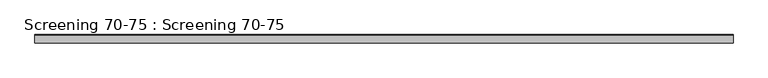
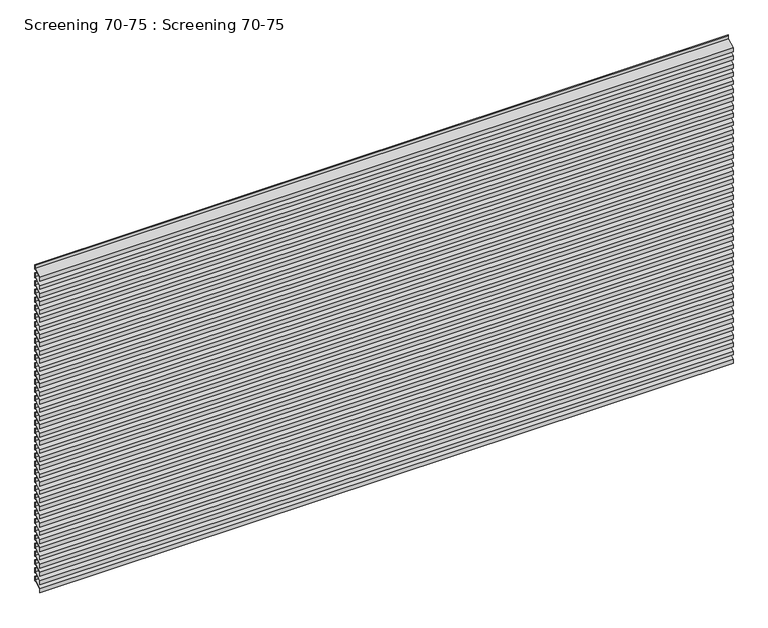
"""IFC4 building model written with IfcOpenShell, lengths in millimetres: plate geometry, Screening 70-75 : Screening 70-75."""

from ifc_helpers import new_model, si_unit, point, frame, frame_2d, origin, place, context, project, spatial, polyline, circle_curve, trimmed, segment, composite_curve, outline, extrude, source, transform, mapped, element, save


def screening_70_75_screening_70_75_aa86186d(model_context):
    return source(origin(), model_context, "Body", "SweptSolid", [
        extrude(outline(composite_curve([segment(polyline([(-73.0, 2862.1), (-73.0, 2897.5291809)]), True, "CONTINUOUS"), segment(trimmed(circle_curve(frame_2d((-534.237547, 3776.0902569)), 992.2749816), [point((-73.0, 2897.5291809))], [point((-4.0, 2937.3663555))], True, "CARTESIAN"), True, "CONTINUOUS"), segment(polyline([(-4.0, 2937.3663555), (-4.0, 2968.009614), (0.0, 2971.1725089), (0.0, 2926.6482493), (-17.4871094, 2926.6482493)]), True, "CONTINUOUS"), segment(trimmed(circle_curve(frame_2d((-534.237547, 3776.0902569)), 994.2749816), [point((-17.4871094, 2926.6482493))], [point((-71.0, 2896.3211315))], False, "CARTESIAN"), True, "CONTINUOUS"), segment(polyline([(-71.0, 2896.3211315), (-71.0, 2862.1), (-73.0, 2862.1)]), True, "CONTINUOUS")], self_intersect=False)), frame((-3000.0, 0.0, 0.0), z_axis=(1.0, 0.0, 0.0), x_axis=(0.0, 1.0, 0.0)), (0.0, 0.0, 1.0), 6000.0),
        extrude(outline(composite_curve([segment(polyline([(-73.0, 2787.1), (-73.0, 2822.5291809)]), True, "CONTINUOUS"), segment(trimmed(circle_curve(frame_2d((-534.237547, 3701.0902569)), 992.2749816), [point((-73.0, 2822.5291809))], [point((-4.0, 2862.3663555))], True, "CARTESIAN"), True, "CONTINUOUS"), segment(polyline([(-4.0, 2862.3663555), (-4.0, 2893.009614), (0.0, 2896.1725089), (0.0, 2851.6482493), (-17.4871094, 2851.6482493)]), True, "CONTINUOUS"), segment(trimmed(circle_curve(frame_2d((-534.237547, 3701.0902569)), 994.2749816), [point((-17.4871094, 2851.6482493))], [point((-71.0, 2821.3211315))], False, "CARTESIAN"), True, "CONTINUOUS"), segment(polyline([(-71.0, 2821.3211315), (-71.0, 2787.1), (-73.0, 2787.1)]), True, "CONTINUOUS")], self_intersect=False)), frame((-3000.0, 0.0, 0.0), z_axis=(1.0, 0.0, 0.0), x_axis=(0.0, 1.0, 0.0)), (0.0, 0.0, 1.0), 6000.0),
        extrude(outline(composite_curve([segment(polyline([(-73.0, 2712.1), (-73.0, 2747.5291809)]), True, "CONTINUOUS"), segment(trimmed(circle_curve(frame_2d((-534.237547, 3626.0902569)), 992.2749816), [point((-73.0, 2747.5291809))], [point((-4.0, 2787.3663555))], True, "CARTESIAN"), True, "CONTINUOUS"), segment(polyline([(-4.0, 2787.3663555), (-4.0, 2818.009614), (0.0, 2821.1725089), (0.0, 2776.6482493), (-17.4871094, 2776.6482493)]), True, "CONTINUOUS"), segment(trimmed(circle_curve(frame_2d((-534.237547, 3626.0902569)), 994.2749816), [point((-17.4871094, 2776.6482493))], [point((-71.0, 2746.3211315))], False, "CARTESIAN"), True, "CONTINUOUS"), segment(polyline([(-71.0, 2746.3211315), (-71.0, 2712.1), (-73.0, 2712.1)]), True, "CONTINUOUS")], self_intersect=False)), frame((-3000.0, 0.0, 0.0), z_axis=(1.0, 0.0, 0.0), x_axis=(0.0, 1.0, 0.0)), (0.0, 0.0, 1.0), 6000.0),
        extrude(outline(composite_curve([segment(polyline([(-73.0, 2637.1), (-73.0, 2672.5291809)]), True, "CONTINUOUS"), segment(trimmed(circle_curve(frame_2d((-534.237547, 3551.0902569)), 992.2749816), [point((-73.0, 2672.5291809))], [point((-4.0, 2712.3663555))], True, "CARTESIAN"), True, "CONTINUOUS"), segment(polyline([(-4.0, 2712.3663555), (-4.0, 2743.009614), (0.0, 2746.1725089), (0.0, 2701.6482493), (-17.4871094, 2701.6482493)]), True, "CONTINUOUS"), segment(trimmed(circle_curve(frame_2d((-534.237547, 3551.0902569)), 994.2749816), [point((-17.4871094, 2701.6482493))], [point((-71.0, 2671.3211315))], False, "CARTESIAN"), True, "CONTINUOUS"), segment(polyline([(-71.0, 2671.3211315), (-71.0, 2637.1), (-73.0, 2637.1)]), True, "CONTINUOUS")], self_intersect=False)), frame((-3000.0, 0.0, 0.0), z_axis=(1.0, 0.0, 0.0), x_axis=(0.0, 1.0, 0.0)), (0.0, 0.0, 1.0), 6000.0),
        extrude(outline(composite_curve([segment(polyline([(-73.0, 2562.1), (-73.0, 2597.5291809)]), True, "CONTINUOUS"), segment(trimmed(circle_curve(frame_2d((-534.237547, 3476.0902569)), 992.2749816), [point((-73.0, 2597.5291809))], [point((-4.0, 2637.3663555))], True, "CARTESIAN"), True, "CONTINUOUS"), segment(polyline([(-4.0, 2637.3663555), (-4.0, 2668.009614), (0.0, 2671.1725089), (0.0, 2626.6482493), (-17.4871094, 2626.6482493)]), True, "CONTINUOUS"), segment(trimmed(circle_curve(frame_2d((-534.237547, 3476.0902569)), 994.2749816), [point((-17.4871094, 2626.6482493))], [point((-71.0, 2596.3211315))], False, "CARTESIAN"), True, "CONTINUOUS"), segment(polyline([(-71.0, 2596.3211315), (-71.0, 2562.1), (-73.0, 2562.1)]), True, "CONTINUOUS")], self_intersect=False)), frame((-3000.0, 0.0, 0.0), z_axis=(1.0, 0.0, 0.0), x_axis=(0.0, 1.0, 0.0)), (0.0, 0.0, 1.0), 6000.0),
        extrude(outline(composite_curve([segment(polyline([(-73.0, 2487.1), (-73.0, 2522.5291809)]), True, "CONTINUOUS"), segment(trimmed(circle_curve(frame_2d((-534.237547, 3401.0902569)), 992.2749816), [point((-73.0, 2522.5291809))], [point((-4.0, 2562.3663555))], True, "CARTESIAN"), True, "CONTINUOUS"), segment(polyline([(-4.0, 2562.3663555), (-4.0, 2593.009614), (0.0, 2596.1725089), (0.0, 2551.6482493), (-17.4871094, 2551.6482493)]), True, "CONTINUOUS"), segment(trimmed(circle_curve(frame_2d((-534.237547, 3401.0902569)), 994.2749816), [point((-17.4871094, 2551.6482493))], [point((-71.0, 2521.3211315))], False, "CARTESIAN"), True, "CONTINUOUS"), segment(polyline([(-71.0, 2521.3211315), (-71.0, 2487.1), (-73.0, 2487.1)]), True, "CONTINUOUS")], self_intersect=False)), frame((-3000.0, 0.0, 0.0), z_axis=(1.0, 0.0, 0.0), x_axis=(0.0, 1.0, 0.0)), (0.0, 0.0, 1.0), 6000.0),
        extrude(outline(composite_curve([segment(polyline([(-73.0, 2412.1), (-73.0, 2447.5291809)]), True, "CONTINUOUS"), segment(trimmed(circle_curve(frame_2d((-534.237547, 3326.0902569)), 992.2749816), [point((-73.0, 2447.5291809))], [point((-4.0, 2487.3663555))], True, "CARTESIAN"), True, "CONTINUOUS"), segment(polyline([(-4.0, 2487.3663555), (-4.0, 2518.009614), (0.0, 2521.1725089), (0.0, 2476.6482493), (-17.4871094, 2476.6482493)]), True, "CONTINUOUS"), segment(trimmed(circle_curve(frame_2d((-534.237547, 3326.0902569)), 994.2749816), [point((-17.4871094, 2476.6482493))], [point((-71.0, 2446.3211315))], False, "CARTESIAN"), True, "CONTINUOUS"), segment(polyline([(-71.0, 2446.3211315), (-71.0, 2412.1), (-73.0, 2412.1)]), True, "CONTINUOUS")], self_intersect=False)), frame((-3000.0, 0.0, 0.0), z_axis=(1.0, 0.0, 0.0), x_axis=(0.0, 1.0, 0.0)), (0.0, 0.0, 1.0), 6000.0),
        extrude(outline(composite_curve([segment(polyline([(-73.0, 2337.1), (-73.0, 2372.5291809)]), True, "CONTINUOUS"), segment(trimmed(circle_curve(frame_2d((-534.237547, 3251.0902569)), 992.2749816), [point((-73.0, 2372.5291809))], [point((-4.0, 2412.3663555))], True, "CARTESIAN"), True, "CONTINUOUS"), segment(polyline([(-4.0, 2412.3663555), (-4.0, 2443.009614), (0.0, 2446.1725089), (0.0, 2401.6482493), (-17.4871094, 2401.6482493)]), True, "CONTINUOUS"), segment(trimmed(circle_curve(frame_2d((-534.237547, 3251.0902569)), 994.2749816), [point((-17.4871094, 2401.6482493))], [point((-71.0, 2371.3211315))], False, "CARTESIAN"), True, "CONTINUOUS"), segment(polyline([(-71.0, 2371.3211315), (-71.0, 2337.1), (-73.0, 2337.1)]), True, "CONTINUOUS")], self_intersect=False)), frame((-3000.0, 0.0, 0.0), z_axis=(1.0, 0.0, 0.0), x_axis=(0.0, 1.0, 0.0)), (0.0, 0.0, 1.0), 6000.0),
        extrude(outline(composite_curve([segment(polyline([(-73.0, 2262.1), (-73.0, 2297.5291809)]), True, "CONTINUOUS"), segment(trimmed(circle_curve(frame_2d((-534.237547, 3176.0902569)), 992.2749816), [point((-73.0, 2297.5291809))], [point((-4.0, 2337.3663555))], True, "CARTESIAN"), True, "CONTINUOUS"), segment(polyline([(-4.0, 2337.3663555), (-4.0, 2368.009614), (0.0, 2371.1725089), (0.0, 2326.6482493), (-17.4871094, 2326.6482493)]), True, "CONTINUOUS"), segment(trimmed(circle_curve(frame_2d((-534.237547, 3176.0902569)), 994.2749816), [point((-17.4871094, 2326.6482493))], [point((-71.0, 2296.3211315))], False, "CARTESIAN"), True, "CONTINUOUS"), segment(polyline([(-71.0, 2296.3211315), (-71.0, 2262.1), (-73.0, 2262.1)]), True, "CONTINUOUS")], self_intersect=False)), frame((-3000.0, 0.0, 0.0), z_axis=(1.0, 0.0, 0.0), x_axis=(0.0, 1.0, 0.0)), (0.0, 0.0, 1.0), 6000.0),
        extrude(outline(composite_curve([segment(polyline([(-73.0, 2187.1), (-73.0, 2222.5291809)]), True, "CONTINUOUS"), segment(trimmed(circle_curve(frame_2d((-534.237547, 3101.0902569)), 992.2749816), [point((-73.0, 2222.5291809))], [point((-4.0, 2262.3663555))], True, "CARTESIAN"), True, "CONTINUOUS"), segment(polyline([(-4.0, 2262.3663555), (-4.0, 2293.009614), (0.0, 2296.1725089), (0.0, 2251.6482493), (-17.4871094, 2251.6482493)]), True, "CONTINUOUS"), segment(trimmed(circle_curve(frame_2d((-534.237547, 3101.0902569)), 994.2749816), [point((-17.4871094, 2251.6482493))], [point((-71.0, 2221.3211315))], False, "CARTESIAN"), True, "CONTINUOUS"), segment(polyline([(-71.0, 2221.3211315), (-71.0, 2187.1), (-73.0, 2187.1)]), True, "CONTINUOUS")], self_intersect=False)), frame((-3000.0, 0.0, 0.0), z_axis=(1.0, 0.0, 0.0), x_axis=(0.0, 1.0, 0.0)), (0.0, 0.0, 1.0), 6000.0),
        extrude(outline(composite_curve([segment(polyline([(-73.0, 2112.1), (-73.0, 2147.5291809)]), True, "CONTINUOUS"), segment(trimmed(circle_curve(frame_2d((-534.237547, 3026.0902569)), 992.2749816), [point((-73.0, 2147.5291809))], [point((-4.0, 2187.3663555))], True, "CARTESIAN"), True, "CONTINUOUS"), segment(polyline([(-4.0, 2187.3663555), (-4.0, 2218.009614), (0.0, 2221.1725089), (0.0, 2176.6482493), (-17.4871094, 2176.6482493)]), True, "CONTINUOUS"), segment(trimmed(circle_curve(frame_2d((-534.237547, 3026.0902569)), 994.2749816), [point((-17.4871094, 2176.6482493))], [point((-71.0, 2146.3211315))], False, "CARTESIAN"), True, "CONTINUOUS"), segment(polyline([(-71.0, 2146.3211315), (-71.0, 2112.1), (-73.0, 2112.1)]), True, "CONTINUOUS")], self_intersect=False)), frame((-3000.0, 0.0, 0.0), z_axis=(1.0, 0.0, 0.0), x_axis=(0.0, 1.0, 0.0)), (0.0, 0.0, 1.0), 6000.0),
        extrude(outline(composite_curve([segment(polyline([(-73.0, 2037.1), (-73.0, 2072.5291809)]), True, "CONTINUOUS"), segment(trimmed(circle_curve(frame_2d((-534.237547, 2951.0902569)), 992.2749816), [point((-73.0, 2072.5291809))], [point((-4.0, 2112.3663555))], True, "CARTESIAN"), True, "CONTINUOUS"), segment(polyline([(-4.0, 2112.3663555), (-4.0, 2143.009614), (0.0, 2146.1725089), (0.0, 2101.6482493), (-17.4871094, 2101.6482493)]), True, "CONTINUOUS"), segment(trimmed(circle_curve(frame_2d((-534.237547, 2951.0902569)), 994.2749816), [point((-17.4871094, 2101.6482493))], [point((-71.0, 2071.3211315))], False, "CARTESIAN"), True, "CONTINUOUS"), segment(polyline([(-71.0, 2071.3211315), (-71.0, 2037.1), (-73.0, 2037.1)]), True, "CONTINUOUS")], self_intersect=False)), frame((-3000.0, 0.0, 0.0), z_axis=(1.0, 0.0, 0.0), x_axis=(0.0, 1.0, 0.0)), (0.0, 0.0, 1.0), 6000.0),
        extrude(outline(composite_curve([segment(polyline([(-73.0, 1962.1), (-73.0, 1997.5291809)]), True, "CONTINUOUS"), segment(trimmed(circle_curve(frame_2d((-534.237547, 2876.0902569)), 992.2749816), [point((-73.0, 1997.5291809))], [point((-4.0, 2037.3663555))], True, "CARTESIAN"), True, "CONTINUOUS"), segment(polyline([(-4.0, 2037.3663555), (-4.0, 2068.009614), (0.0, 2071.1725089), (0.0, 2026.6482493), (-17.4871094, 2026.6482493)]), True, "CONTINUOUS"), segment(trimmed(circle_curve(frame_2d((-534.237547, 2876.0902569)), 994.2749816), [point((-17.4871094, 2026.6482493))], [point((-71.0, 1996.3211315))], False, "CARTESIAN"), True, "CONTINUOUS"), segment(polyline([(-71.0, 1996.3211315), (-71.0, 1962.1), (-73.0, 1962.1)]), True, "CONTINUOUS")], self_intersect=False)), frame((-3000.0, 0.0, 0.0), z_axis=(1.0, 0.0, 0.0), x_axis=(0.0, 1.0, 0.0)), (0.0, 0.0, 1.0), 6000.0),
        extrude(outline(composite_curve([segment(polyline([(-73.0, 1887.1), (-73.0, 1922.5291809)]), True, "CONTINUOUS"), segment(trimmed(circle_curve(frame_2d((-534.237547, 2801.0902569)), 992.2749816), [point((-73.0, 1922.5291809))], [point((-4.0, 1962.3663555))], True, "CARTESIAN"), True, "CONTINUOUS"), segment(polyline([(-4.0, 1962.3663555), (-4.0, 1993.009614), (0.0, 1996.1725089), (0.0, 1951.6482493), (-17.4871094, 1951.6482493)]), True, "CONTINUOUS"), segment(trimmed(circle_curve(frame_2d((-534.237547, 2801.0902569)), 994.2749816), [point((-17.4871094, 1951.6482493))], [point((-71.0, 1921.3211315))], False, "CARTESIAN"), True, "CONTINUOUS"), segment(polyline([(-71.0, 1921.3211315), (-71.0, 1887.1), (-73.0, 1887.1)]), True, "CONTINUOUS")], self_intersect=False)), frame((-3000.0, 0.0, 0.0), z_axis=(1.0, 0.0, 0.0), x_axis=(0.0, 1.0, 0.0)), (0.0, 0.0, 1.0), 6000.0),
        extrude(outline(composite_curve([segment(polyline([(-73.0, 1812.1), (-73.0, 1847.5291809)]), True, "CONTINUOUS"), segment(trimmed(circle_curve(frame_2d((-534.237547, 2726.0902569)), 992.2749816), [point((-73.0, 1847.5291809))], [point((-4.0, 1887.3663555))], True, "CARTESIAN"), True, "CONTINUOUS"), segment(polyline([(-4.0, 1887.3663555), (-4.0, 1918.009614), (0.0, 1921.1725089), (0.0, 1876.6482493), (-17.4871094, 1876.6482493)]), True, "CONTINUOUS"), segment(trimmed(circle_curve(frame_2d((-534.237547, 2726.0902569)), 994.2749816), [point((-17.4871094, 1876.6482493))], [point((-71.0, 1846.3211315))], False, "CARTESIAN"), True, "CONTINUOUS"), segment(polyline([(-71.0, 1846.3211315), (-71.0, 1812.1), (-73.0, 1812.1)]), True, "CONTINUOUS")], self_intersect=False)), frame((-3000.0, 0.0, 0.0), z_axis=(1.0, 0.0, 0.0), x_axis=(0.0, 1.0, 0.0)), (0.0, 0.0, 1.0), 6000.0),
        extrude(outline(composite_curve([segment(polyline([(-73.0, 1737.1), (-73.0, 1772.5291809)]), True, "CONTINUOUS"), segment(trimmed(circle_curve(frame_2d((-534.237547, 2651.0902569)), 992.2749816), [point((-73.0, 1772.5291809))], [point((-4.0, 1812.3663555))], True, "CARTESIAN"), True, "CONTINUOUS"), segment(polyline([(-4.0, 1812.3663555), (-4.0, 1843.009614), (0.0, 1846.1725089), (0.0, 1801.6482493), (-17.4871094, 1801.6482493)]), True, "CONTINUOUS"), segment(trimmed(circle_curve(frame_2d((-534.237547, 2651.0902569)), 994.2749816), [point((-17.4871094, 1801.6482493))], [point((-71.0, 1771.3211315))], False, "CARTESIAN"), True, "CONTINUOUS"), segment(polyline([(-71.0, 1771.3211315), (-71.0, 1737.1), (-73.0, 1737.1)]), True, "CONTINUOUS")], self_intersect=False)), frame((-3000.0, 0.0, 0.0), z_axis=(1.0, 0.0, 0.0), x_axis=(0.0, 1.0, 0.0)), (0.0, 0.0, 1.0), 6000.0),
        extrude(outline(composite_curve([segment(polyline([(-73.0, 1662.1), (-73.0, 1697.5291809)]), True, "CONTINUOUS"), segment(trimmed(circle_curve(frame_2d((-534.237547, 2576.0902569)), 992.2749816), [point((-73.0, 1697.5291809))], [point((-4.0, 1737.3663555))], True, "CARTESIAN"), True, "CONTINUOUS"), segment(polyline([(-4.0, 1737.3663555), (-4.0, 1768.009614), (0.0, 1771.1725089), (0.0, 1726.6482493), (-17.4871094, 1726.6482493)]), True, "CONTINUOUS"), segment(trimmed(circle_curve(frame_2d((-534.237547, 2576.0902569)), 994.2749816), [point((-17.4871094, 1726.6482493))], [point((-71.0, 1696.3211315))], False, "CARTESIAN"), True, "CONTINUOUS"), segment(polyline([(-71.0, 1696.3211315), (-71.0, 1662.1), (-73.0, 1662.1)]), True, "CONTINUOUS")], self_intersect=False)), frame((-3000.0, 0.0, 0.0), z_axis=(1.0, 0.0, 0.0), x_axis=(0.0, 1.0, 0.0)), (0.0, 0.0, 1.0), 6000.0),
        extrude(outline(composite_curve([segment(polyline([(-73.0, 1587.1), (-73.0, 1622.5291809)]), True, "CONTINUOUS"), segment(trimmed(circle_curve(frame_2d((-534.237547, 2501.0902569)), 992.2749816), [point((-73.0, 1622.5291809))], [point((-4.0, 1662.3663555))], True, "CARTESIAN"), True, "CONTINUOUS"), segment(polyline([(-4.0, 1662.3663555), (-4.0, 1693.009614), (0.0, 1696.1725089), (0.0, 1651.6482493), (-17.4871094, 1651.6482493)]), True, "CONTINUOUS"), segment(trimmed(circle_curve(frame_2d((-534.237547, 2501.0902569)), 994.2749816), [point((-17.4871094, 1651.6482493))], [point((-71.0, 1621.3211315))], False, "CARTESIAN"), True, "CONTINUOUS"), segment(polyline([(-71.0, 1621.3211315), (-71.0, 1587.1), (-73.0, 1587.1)]), True, "CONTINUOUS")], self_intersect=False)), frame((-3000.0, 0.0, 0.0), z_axis=(1.0, 0.0, 0.0), x_axis=(0.0, 1.0, 0.0)), (0.0, 0.0, 1.0), 6000.0),
        extrude(outline(composite_curve([segment(polyline([(-73.0, 1512.1), (-73.0, 1547.5291809)]), True, "CONTINUOUS"), segment(trimmed(circle_curve(frame_2d((-534.237547, 2426.0902569)), 992.2749816), [point((-73.0, 1547.5291809))], [point((-4.0, 1587.3663555))], True, "CARTESIAN"), True, "CONTINUOUS"), segment(polyline([(-4.0, 1587.3663555), (-4.0, 1618.009614), (0.0, 1621.1725089), (0.0, 1576.6482493), (-17.4871094, 1576.6482493)]), True, "CONTINUOUS"), segment(trimmed(circle_curve(frame_2d((-534.237547, 2426.0902569)), 994.2749816), [point((-17.4871094, 1576.6482493))], [point((-71.0, 1546.3211315))], False, "CARTESIAN"), True, "CONTINUOUS"), segment(polyline([(-71.0, 1546.3211315), (-71.0, 1512.1), (-73.0, 1512.1)]), True, "CONTINUOUS")], self_intersect=False)), frame((-3000.0, 0.0, 0.0), z_axis=(1.0, 0.0, 0.0), x_axis=(0.0, 1.0, 0.0)), (0.0, 0.0, 1.0), 6000.0),
        extrude(outline(composite_curve([segment(polyline([(-73.0, 1437.1), (-73.0, 1472.5291809)]), True, "CONTINUOUS"), segment(trimmed(circle_curve(frame_2d((-534.237547, 2351.0902569)), 992.2749816), [point((-73.0, 1472.5291809))], [point((-4.0, 1512.3663555))], True, "CARTESIAN"), True, "CONTINUOUS"), segment(polyline([(-4.0, 1512.3663555), (-4.0, 1543.009614), (0.0, 1546.1725089), (0.0, 1501.6482493), (-17.4871094, 1501.6482493)]), True, "CONTINUOUS"), segment(trimmed(circle_curve(frame_2d((-534.237547, 2351.0902569)), 994.2749816), [point((-17.4871094, 1501.6482493))], [point((-71.0, 1471.3211315))], False, "CARTESIAN"), True, "CONTINUOUS"), segment(polyline([(-71.0, 1471.3211315), (-71.0, 1437.1), (-73.0, 1437.1)]), True, "CONTINUOUS")], self_intersect=False)), frame((-3000.0, 0.0, 0.0), z_axis=(1.0, 0.0, 0.0), x_axis=(0.0, 1.0, 0.0)), (0.0, 0.0, 1.0), 6000.0),
        extrude(outline(composite_curve([segment(polyline([(-73.0, 1362.1), (-73.0, 1397.5291809)]), True, "CONTINUOUS"), segment(trimmed(circle_curve(frame_2d((-534.237547, 2276.0902569)), 992.2749816), [point((-73.0, 1397.5291809))], [point((-4.0, 1437.3663555))], True, "CARTESIAN"), True, "CONTINUOUS"), segment(polyline([(-4.0, 1437.3663555), (-4.0, 1468.009614), (0.0, 1471.1725089), (0.0, 1426.6482493), (-17.4871094, 1426.6482493)]), True, "CONTINUOUS"), segment(trimmed(circle_curve(frame_2d((-534.237547, 2276.0902569)), 994.2749816), [point((-17.4871094, 1426.6482493))], [point((-71.0, 1396.3211315))], False, "CARTESIAN"), True, "CONTINUOUS"), segment(polyline([(-71.0, 1396.3211315), (-71.0, 1362.1), (-73.0, 1362.1)]), True, "CONTINUOUS")], self_intersect=False)), frame((-3000.0, 0.0, 0.0), z_axis=(1.0, 0.0, 0.0), x_axis=(0.0, 1.0, 0.0)), (0.0, 0.0, 1.0), 6000.0),
        extrude(outline(composite_curve([segment(polyline([(-73.0, 1287.1), (-73.0, 1322.5291809)]), True, "CONTINUOUS"), segment(trimmed(circle_curve(frame_2d((-534.237547, 2201.0902569)), 992.2749816), [point((-73.0, 1322.5291809))], [point((-4.0, 1362.3663555))], True, "CARTESIAN"), True, "CONTINUOUS"), segment(polyline([(-4.0, 1362.3663555), (-4.0, 1393.009614), (0.0, 1396.1725089), (0.0, 1351.6482493), (-17.4871094, 1351.6482493)]), True, "CONTINUOUS"), segment(trimmed(circle_curve(frame_2d((-534.237547, 2201.0902569)), 994.2749816), [point((-17.4871094, 1351.6482493))], [point((-71.0, 1321.3211315))], False, "CARTESIAN"), True, "CONTINUOUS"), segment(polyline([(-71.0, 1321.3211315), (-71.0, 1287.1), (-73.0, 1287.1)]), True, "CONTINUOUS")], self_intersect=False)), frame((-3000.0, 0.0, 0.0), z_axis=(1.0, 0.0, 0.0), x_axis=(0.0, 1.0, 0.0)), (0.0, 0.0, 1.0), 6000.0),
        extrude(outline(composite_curve([segment(polyline([(-73.0, 1212.1), (-73.0, 1247.5291809)]), True, "CONTINUOUS"), segment(trimmed(circle_curve(frame_2d((-534.237547, 2126.0902569)), 992.2749816), [point((-73.0, 1247.5291809))], [point((-4.0, 1287.3663555))], True, "CARTESIAN"), True, "CONTINUOUS"), segment(polyline([(-4.0, 1287.3663555), (-4.0, 1318.009614), (0.0, 1321.1725089), (0.0, 1276.6482493), (-17.4871094, 1276.6482493)]), True, "CONTINUOUS"), segment(trimmed(circle_curve(frame_2d((-534.237547, 2126.0902569)), 994.2749816), [point((-17.4871094, 1276.6482493))], [point((-71.0, 1246.3211315))], False, "CARTESIAN"), True, "CONTINUOUS"), segment(polyline([(-71.0, 1246.3211315), (-71.0, 1212.1), (-73.0, 1212.1)]), True, "CONTINUOUS")], self_intersect=False)), frame((-3000.0, 0.0, 0.0), z_axis=(1.0, 0.0, 0.0), x_axis=(0.0, 1.0, 0.0)), (0.0, 0.0, 1.0), 6000.0),
        extrude(outline(composite_curve([segment(polyline([(-73.0, 1137.1), (-73.0, 1172.5291809)]), True, "CONTINUOUS"), segment(trimmed(circle_curve(frame_2d((-534.237547, 2051.0902569)), 992.2749816), [point((-73.0, 1172.5291809))], [point((-4.0, 1212.3663555))], True, "CARTESIAN"), True, "CONTINUOUS"), segment(polyline([(-4.0, 1212.3663555), (-4.0, 1243.009614), (0.0, 1246.1725089), (0.0, 1201.6482493), (-17.4871094, 1201.6482493)]), True, "CONTINUOUS"), segment(trimmed(circle_curve(frame_2d((-534.237547, 2051.0902569)), 994.2749816), [point((-17.4871094, 1201.6482493))], [point((-71.0, 1171.3211315))], False, "CARTESIAN"), True, "CONTINUOUS"), segment(polyline([(-71.0, 1171.3211315), (-71.0, 1137.1), (-73.0, 1137.1)]), True, "CONTINUOUS")], self_intersect=False)), frame((-3000.0, 0.0, 0.0), z_axis=(1.0, 0.0, 0.0), x_axis=(0.0, 1.0, 0.0)), (0.0, 0.0, 1.0), 6000.0),
        extrude(outline(composite_curve([segment(polyline([(-73.0, 1062.1), (-73.0, 1097.5291809)]), True, "CONTINUOUS"), segment(trimmed(circle_curve(frame_2d((-534.237547, 1976.0902569)), 992.2749816), [point((-73.0, 1097.5291809))], [point((-4.0, 1137.3663555))], True, "CARTESIAN"), True, "CONTINUOUS"), segment(polyline([(-4.0, 1137.3663555), (-4.0, 1168.009614), (0.0, 1171.1725089), (0.0, 1126.6482493), (-17.4871094, 1126.6482493)]), True, "CONTINUOUS"), segment(trimmed(circle_curve(frame_2d((-534.237547, 1976.0902569)), 994.2749816), [point((-17.4871094, 1126.6482493))], [point((-71.0, 1096.3211315))], False, "CARTESIAN"), True, "CONTINUOUS"), segment(polyline([(-71.0, 1096.3211315), (-71.0, 1062.1), (-73.0, 1062.1)]), True, "CONTINUOUS")], self_intersect=False)), frame((-3000.0, 0.0, 0.0), z_axis=(1.0, 0.0, 0.0), x_axis=(0.0, 1.0, 0.0)), (0.0, 0.0, 1.0), 6000.0),
        extrude(outline(composite_curve([segment(polyline([(-73.0, 987.1), (-73.0, 1022.5291809)]), True, "CONTINUOUS"), segment(trimmed(circle_curve(frame_2d((-534.237547, 1901.0902569)), 992.2749816), [point((-73.0, 1022.5291809))], [point((-4.0, 1062.3663555))], True, "CARTESIAN"), True, "CONTINUOUS"), segment(polyline([(-4.0, 1062.3663555), (-4.0, 1093.009614), (0.0, 1096.1725089), (0.0, 1051.6482493), (-17.4871094, 1051.6482493)]), True, "CONTINUOUS"), segment(trimmed(circle_curve(frame_2d((-534.237547, 1901.0902569)), 994.2749816), [point((-17.4871094, 1051.6482493))], [point((-71.0, 1021.3211315))], False, "CARTESIAN"), True, "CONTINUOUS"), segment(polyline([(-71.0, 1021.3211315), (-71.0, 987.1), (-73.0, 987.1)]), True, "CONTINUOUS")], self_intersect=False)), frame((-3000.0, 0.0, 0.0), z_axis=(1.0, 0.0, 0.0), x_axis=(0.0, 1.0, 0.0)), (0.0, 0.0, 1.0), 6000.0),
        extrude(outline(composite_curve([segment(polyline([(-73.0, 912.1), (-73.0, 947.5291809)]), True, "CONTINUOUS"), segment(trimmed(circle_curve(frame_2d((-534.237547, 1826.0902569)), 992.2749816), [point((-73.0, 947.5291809))], [point((-4.0, 987.3663555))], True, "CARTESIAN"), True, "CONTINUOUS"), segment(polyline([(-4.0, 987.3663555), (-4.0, 1018.009614), (0.0, 1021.1725089), (0.0, 976.6482493), (-17.4871094, 976.6482493)]), True, "CONTINUOUS"), segment(trimmed(circle_curve(frame_2d((-534.237547, 1826.0902569)), 994.2749816), [point((-17.4871094, 976.6482493))], [point((-71.0, 946.3211315))], False, "CARTESIAN"), True, "CONTINUOUS"), segment(polyline([(-71.0, 946.3211315), (-71.0, 912.1), (-73.0, 912.1)]), True, "CONTINUOUS")], self_intersect=False)), frame((-3000.0, 0.0, 0.0), z_axis=(1.0, 0.0, 0.0), x_axis=(0.0, 1.0, 0.0)), (0.0, 0.0, 1.0), 6000.0),
        extrude(outline(composite_curve([segment(polyline([(-73.0, 837.1), (-73.0, 872.5291809)]), True, "CONTINUOUS"), segment(trimmed(circle_curve(frame_2d((-534.237547, 1751.0902569)), 992.2749816), [point((-73.0, 872.5291809))], [point((-4.0, 912.3663555))], True, "CARTESIAN"), True, "CONTINUOUS"), segment(polyline([(-4.0, 912.3663555), (-4.0, 943.009614), (0.0, 946.1725089), (0.0, 901.6482493), (-17.4871094, 901.6482493)]), True, "CONTINUOUS"), segment(trimmed(circle_curve(frame_2d((-534.237547, 1751.0902569)), 994.2749816), [point((-17.4871094, 901.6482493))], [point((-71.0, 871.3211315))], False, "CARTESIAN"), True, "CONTINUOUS"), segment(polyline([(-71.0, 871.3211315), (-71.0, 837.1), (-73.0, 837.1)]), True, "CONTINUOUS")], self_intersect=False)), frame((-3000.0, 0.0, 0.0), z_axis=(1.0, 0.0, 0.0), x_axis=(0.0, 1.0, 0.0)), (0.0, 0.0, 1.0), 6000.0),
        extrude(outline(composite_curve([segment(polyline([(-73.0, 762.1), (-73.0, 797.5291809)]), True, "CONTINUOUS"), segment(trimmed(circle_curve(frame_2d((-534.237547, 1676.0902569)), 992.2749816), [point((-73.0, 797.5291809))], [point((-4.0, 837.3663555))], True, "CARTESIAN"), True, "CONTINUOUS"), segment(polyline([(-4.0, 837.3663555), (-4.0, 868.009614), (0.0, 871.1725089), (0.0, 826.6482493), (-17.4871094, 826.6482493)]), True, "CONTINUOUS"), segment(trimmed(circle_curve(frame_2d((-534.237547, 1676.0902569)), 994.2749816), [point((-17.4871094, 826.6482493))], [point((-71.0, 796.3211315))], False, "CARTESIAN"), True, "CONTINUOUS"), segment(polyline([(-71.0, 796.3211315), (-71.0, 762.1), (-73.0, 762.1)]), True, "CONTINUOUS")], self_intersect=False)), frame((-3000.0, 0.0, 0.0), z_axis=(1.0, 0.0, 0.0), x_axis=(0.0, 1.0, 0.0)), (0.0, 0.0, 1.0), 6000.0),
        extrude(outline(composite_curve([segment(polyline([(-73.0, 687.1), (-73.0, 722.5291809)]), True, "CONTINUOUS"), segment(trimmed(circle_curve(frame_2d((-534.237547, 1601.0902569)), 992.2749816), [point((-73.0, 722.5291809))], [point((-4.0, 762.3663555))], True, "CARTESIAN"), True, "CONTINUOUS"), segment(polyline([(-4.0, 762.3663555), (-4.0, 793.009614), (0.0, 796.1725089), (0.0, 751.6482493), (-17.4871094, 751.6482493)]), True, "CONTINUOUS"), segment(trimmed(circle_curve(frame_2d((-534.237547, 1601.0902569)), 994.2749816), [point((-17.4871094, 751.6482493))], [point((-71.0, 721.3211315))], False, "CARTESIAN"), True, "CONTINUOUS"), segment(polyline([(-71.0, 721.3211315), (-71.0, 687.1), (-73.0, 687.1)]), True, "CONTINUOUS")], self_intersect=False)), frame((-3000.0, 0.0, 0.0), z_axis=(1.0, 0.0, 0.0), x_axis=(0.0, 1.0, 0.0)), (0.0, 0.0, 1.0), 6000.0),
        extrude(outline(composite_curve([segment(polyline([(-73.0, 612.1), (-73.0, 647.5291809)]), True, "CONTINUOUS"), segment(trimmed(circle_curve(frame_2d((-534.237547, 1526.0902569)), 992.2749816), [point((-73.0, 647.5291809))], [point((-4.0, 687.3663555))], True, "CARTESIAN"), True, "CONTINUOUS"), segment(polyline([(-4.0, 687.3663555), (-4.0, 718.009614), (0.0, 721.1725089), (0.0, 676.6482493), (-17.4871094, 676.6482493)]), True, "CONTINUOUS"), segment(trimmed(circle_curve(frame_2d((-534.237547, 1526.0902569)), 994.2749816), [point((-17.4871094, 676.6482493))], [point((-71.0, 646.3211315))], False, "CARTESIAN"), True, "CONTINUOUS"), segment(polyline([(-71.0, 646.3211315), (-71.0, 612.1), (-73.0, 612.1)]), True, "CONTINUOUS")], self_intersect=False)), frame((-3000.0, 0.0, 0.0), z_axis=(1.0, 0.0, 0.0), x_axis=(0.0, 1.0, 0.0)), (0.0, 0.0, 1.0), 6000.0),
        extrude(outline(composite_curve([segment(polyline([(-73.0, 537.1), (-73.0, 572.5291809)]), True, "CONTINUOUS"), segment(trimmed(circle_curve(frame_2d((-534.237547, 1451.0902569)), 992.2749816), [point((-73.0, 572.5291809))], [point((-4.0, 612.3663555))], True, "CARTESIAN"), True, "CONTINUOUS"), segment(polyline([(-4.0, 612.3663555), (-4.0, 643.009614), (0.0, 646.1725089), (0.0, 601.6482493), (-17.4871094, 601.6482493)]), True, "CONTINUOUS"), segment(trimmed(circle_curve(frame_2d((-534.237547, 1451.0902569)), 994.2749816), [point((-17.4871094, 601.6482493))], [point((-71.0, 571.3211315))], False, "CARTESIAN"), True, "CONTINUOUS"), segment(polyline([(-71.0, 571.3211315), (-71.0, 537.1), (-73.0, 537.1)]), True, "CONTINUOUS")], self_intersect=False)), frame((-3000.0, 0.0, 0.0), z_axis=(1.0, 0.0, 0.0), x_axis=(0.0, 1.0, 0.0)), (0.0, 0.0, 1.0), 6000.0),
        extrude(outline(composite_curve([segment(polyline([(-73.0, 462.1), (-73.0, 497.5291809)]), True, "CONTINUOUS"), segment(trimmed(circle_curve(frame_2d((-534.237547, 1376.0902569)), 992.2749816), [point((-73.0, 497.5291809))], [point((-4.0, 537.3663555))], True, "CARTESIAN"), True, "CONTINUOUS"), segment(polyline([(-4.0, 537.3663555), (-4.0, 568.009614), (0.0, 571.1725089), (0.0, 526.6482493), (-17.4871094, 526.6482493)]), True, "CONTINUOUS"), segment(trimmed(circle_curve(frame_2d((-534.237547, 1376.0902569)), 994.2749816), [point((-17.4871094, 526.6482493))], [point((-71.0, 496.3211315))], False, "CARTESIAN"), True, "CONTINUOUS"), segment(polyline([(-71.0, 496.3211315), (-71.0, 462.1), (-73.0, 462.1)]), True, "CONTINUOUS")], self_intersect=False)), frame((-3000.0, 0.0, 0.0), z_axis=(1.0, 0.0, 0.0), x_axis=(0.0, 1.0, 0.0)), (0.0, 0.0, 1.0), 6000.0),
        extrude(outline(composite_curve([segment(polyline([(-73.0, 387.1), (-73.0, 422.5291809)]), True, "CONTINUOUS"), segment(trimmed(circle_curve(frame_2d((-534.237547, 1301.0902569)), 992.2749816), [point((-73.0, 422.5291809))], [point((-4.0, 462.3663555))], True, "CARTESIAN"), True, "CONTINUOUS"), segment(polyline([(-4.0, 462.3663555), (-4.0, 493.009614), (0.0, 496.1725089), (0.0, 451.6482493), (-17.4871094, 451.6482493)]), True, "CONTINUOUS"), segment(trimmed(circle_curve(frame_2d((-534.237547, 1301.0902569)), 994.2749816), [point((-17.4871094, 451.6482493))], [point((-71.0, 421.3211315))], False, "CARTESIAN"), True, "CONTINUOUS"), segment(polyline([(-71.0, 421.3211315), (-71.0, 387.1), (-73.0, 387.1)]), True, "CONTINUOUS")], self_intersect=False)), frame((-3000.0, 0.0, 0.0), z_axis=(1.0, 0.0, 0.0), x_axis=(0.0, 1.0, 0.0)), (0.0, 0.0, 1.0), 6000.0),
        extrude(outline(composite_curve([segment(polyline([(-73.0, 312.1), (-73.0, 347.5291809)]), True, "CONTINUOUS"), segment(trimmed(circle_curve(frame_2d((-534.237547, 1226.0902569)), 992.2749816), [point((-73.0, 347.5291809))], [point((-4.0, 387.3663555))], True, "CARTESIAN"), True, "CONTINUOUS"), segment(polyline([(-4.0, 387.3663555), (-4.0, 418.009614), (0.0, 421.1725089), (0.0, 376.6482493), (-17.4871094, 376.6482493)]), True, "CONTINUOUS"), segment(trimmed(circle_curve(frame_2d((-534.237547, 1226.0902569)), 994.2749816), [point((-17.4871094, 376.6482493))], [point((-71.0, 346.3211315))], False, "CARTESIAN"), True, "CONTINUOUS"), segment(polyline([(-71.0, 346.3211315), (-71.0, 312.1), (-73.0, 312.1)]), True, "CONTINUOUS")], self_intersect=False)), frame((-3000.0, 0.0, 0.0), z_axis=(1.0, 0.0, 0.0), x_axis=(0.0, 1.0, 0.0)), (0.0, 0.0, 1.0), 6000.0),
        extrude(outline(composite_curve([segment(polyline([(-73.0, 237.1), (-73.0, 272.5291809)]), True, "CONTINUOUS"), segment(trimmed(circle_curve(frame_2d((-534.237547, 1151.0902569)), 992.2749816), [point((-73.0, 272.5291809))], [point((-4.0, 312.3663555))], True, "CARTESIAN"), True, "CONTINUOUS"), segment(polyline([(-4.0, 312.3663555), (-4.0, 343.009614), (0.0, 346.1725089), (0.0, 301.6482493), (-17.4871094, 301.6482493)]), True, "CONTINUOUS"), segment(trimmed(circle_curve(frame_2d((-534.237547, 1151.0902569)), 994.2749816), [point((-17.4871094, 301.6482493))], [point((-71.0, 271.3211315))], False, "CARTESIAN"), True, "CONTINUOUS"), segment(polyline([(-71.0, 271.3211315), (-71.0, 237.1), (-73.0, 237.1)]), True, "CONTINUOUS")], self_intersect=False)), frame((-3000.0, 0.0, 0.0), z_axis=(1.0, 0.0, 0.0), x_axis=(0.0, 1.0, 0.0)), (0.0, 0.0, 1.0), 6000.0),
        extrude(outline(composite_curve([segment(polyline([(-73.0, 162.1), (-73.0, 197.5291809)]), True, "CONTINUOUS"), segment(trimmed(circle_curve(frame_2d((-534.237547, 1076.0902569)), 992.2749816), [point((-73.0, 197.5291809))], [point((-4.0, 237.3663555))], True, "CARTESIAN"), True, "CONTINUOUS"), segment(polyline([(-4.0, 237.3663555), (-4.0, 268.009614), (0.0, 271.1725089), (0.0, 226.6482493), (-17.4871094, 226.6482493)]), True, "CONTINUOUS"), segment(trimmed(circle_curve(frame_2d((-534.237547, 1076.0902569)), 994.2749816), [point((-17.4871094, 226.6482493))], [point((-71.0, 196.3211315))], False, "CARTESIAN"), True, "CONTINUOUS"), segment(polyline([(-71.0, 196.3211315), (-71.0, 162.1), (-73.0, 162.1)]), True, "CONTINUOUS")], self_intersect=False)), frame((-3000.0, 0.0, 0.0), z_axis=(1.0, 0.0, 0.0), x_axis=(0.0, 1.0, 0.0)), (0.0, 0.0, 1.0), 6000.0),
        extrude(outline(composite_curve([segment(polyline([(-73.0, 87.1), (-73.0, 122.5291809)]), True, "CONTINUOUS"), segment(trimmed(circle_curve(frame_2d((-534.237547, 1001.0902569)), 992.2749816), [point((-73.0, 122.5291809))], [point((-4.0, 162.3663555))], True, "CARTESIAN"), True, "CONTINUOUS"), segment(polyline([(-4.0, 162.3663555), (-4.0, 193.009614), (0.0, 196.1725089), (0.0, 151.6482493), (-17.4871094, 151.6482493)]), True, "CONTINUOUS"), segment(trimmed(circle_curve(frame_2d((-534.237547, 1001.0902569)), 994.2749816), [point((-17.4871094, 151.6482493))], [point((-71.0, 121.3211315))], False, "CARTESIAN"), True, "CONTINUOUS"), segment(polyline([(-71.0, 121.3211315), (-71.0, 87.1), (-73.0, 87.1)]), True, "CONTINUOUS")], self_intersect=False)), frame((-3000.0, 0.0, 0.0), z_axis=(1.0, 0.0, 0.0), x_axis=(0.0, 1.0, 0.0)), (0.0, 0.0, 1.0), 6000.0),
        extrude(outline(composite_curve([segment(polyline([(-73.0, 12.1), (-73.0, 47.5291809)]), True, "CONTINUOUS"), segment(trimmed(circle_curve(frame_2d((-534.237547, 926.0902569)), 992.2749816), [point((-73.0, 47.5291809))], [point((-4.0, 87.3663555))], True, "CARTESIAN"), True, "CONTINUOUS"), segment(polyline([(-4.0, 87.3663555), (-4.0, 118.009614), (0.0, 121.1725089), (0.0, 76.6482493), (-17.4871094, 76.6482493)]), True, "CONTINUOUS"), segment(trimmed(circle_curve(frame_2d((-534.237547, 926.0902569)), 994.2749816), [point((-17.4871094, 76.6482493))], [point((-71.0, 46.3211315))], False, "CARTESIAN"), True, "CONTINUOUS"), segment(polyline([(-71.0, 46.3211315), (-71.0, 12.1), (-73.0, 12.1)]), True, "CONTINUOUS")], self_intersect=False)), frame((-3000.0, 0.0, 0.0), z_axis=(1.0, 0.0, 0.0), x_axis=(0.0, 1.0, 0.0)), (0.0, 0.0, 1.0), 6000.0),
    ])


if __name__ == "__main__":
    model = new_model("IFC4")
    model_context = context("Model", 3, world=origin())
    ifc_project = project(units=[si_unit("LENGTHUNIT", "METRE", prefix="MILLI")], contexts=[model_context])
    site = spatial("IfcSite", under=ifc_project)
    building = spatial("IfcBuilding", under=site)
    placement = place(None, origin())
    screening_70_75_screening_70_75_shape = screening_70_75_screening_70_75_aa86186d(model_context)
    element("IfcPlate", 1, ObjectType="Screening 70-75 : Screening 70-75", at=placement, inside=building, context=model_context, shape_type="MappedRepresentation", body=[
        mapped(screening_70_75_screening_70_75_shape, transform((0.0, 0.0, 0.0), x_axis=(1.0, 0.0, 0.0), y_axis=(0.0, 1.0, 0.0), z_axis=(0.0, 0.0, 1.0))),
    ])
    save(model, "model.ifc")
